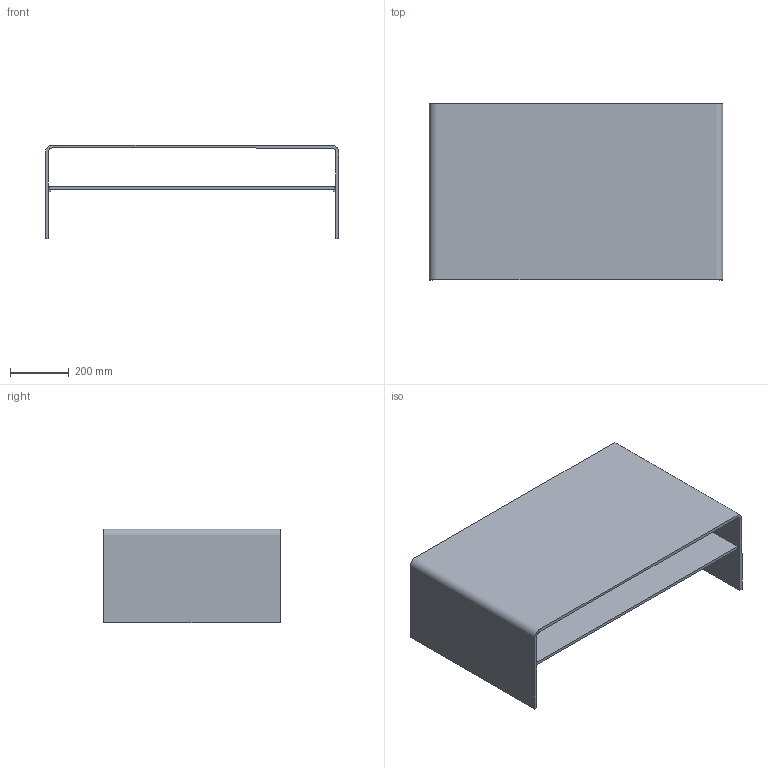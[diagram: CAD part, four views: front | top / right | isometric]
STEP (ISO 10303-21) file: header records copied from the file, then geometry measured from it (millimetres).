
FILE_DESCRIPTION(/* description */ (''),/* implementation_level */ '2;1');
FILE_NAME(/* name */ '0197 - Rialto Piano 100x60',/* time_stamp */ '2010-11-04T09:22:58+01:00',/* author */ (''),/* organization */ (''),/* preprocessor_version */ 'ST-DEVELOPER v10',/* originating_system */ '',/* authorisation */ '');
FILE_SCHEMA (('CONFIG_CONTROL_DESIGN'));
Length unit declared in the file: centimetre
Products named in the file (1): 1
Bounding box: 1000 x 600 x 320 mm (x, y, z)
Volume: 15172395.2 mm3; surface area: 3144985.2 mm2
Topology: 6 solids, 6 shells, 40 faces, 84 edges, 56 vertices
Faces by surface type: plane 38, bspline 2
Entity records: 1100 total; most frequent: CARTESIAN_POINT 376, ORIENTED_EDGE 168, EDGE_CURVE 84, B_SPLINE_CURVE_WITH_KNOTS 80, VERTEX_POINT 56, DIRECTION 42, ADVANCED_FACE 40, FACE_OUTER_BOUND 40
